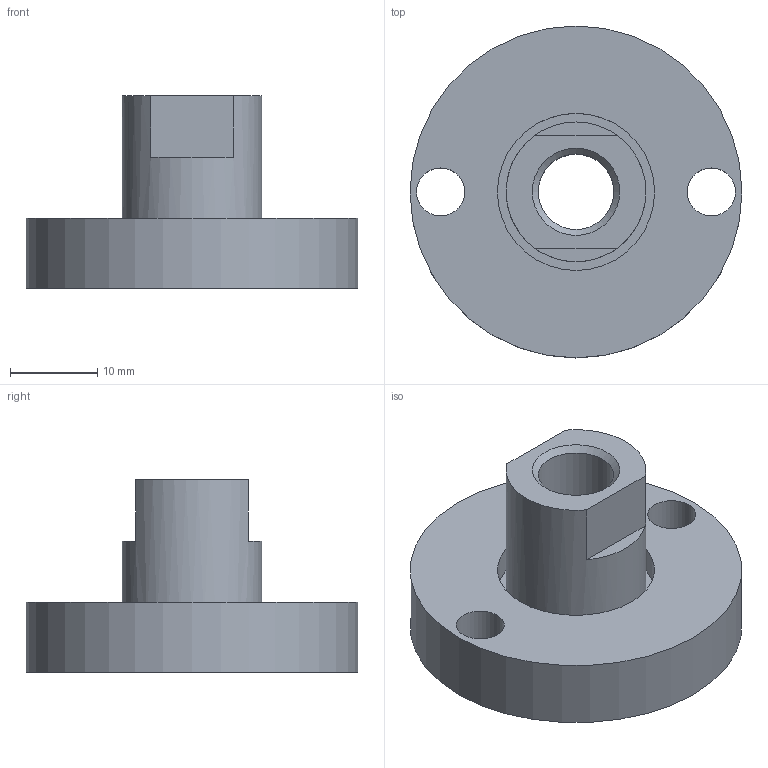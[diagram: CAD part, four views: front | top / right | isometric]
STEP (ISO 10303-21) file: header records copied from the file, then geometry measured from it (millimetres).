
FILE_DESCRIPTION( ( 'STEP AP214' ), '1' );
FILE_NAME( 'U:/Etudes/Top Solid/BIBLIO 3D AVM/TOP/PNEUMATIQUE/GUIDAGES/Accessoires/Accouplements/5133003.step', '2005-05-27T08:28:34', ( ' ' ), ( ' ' ), 'XStep 1.0', ' ', ' ' );
FILE_SCHEMA( ( 'automotive_design' ) );
Length unit declared in the file: metre
Products named in the file (1): 1
Bounding box: 38 x 38 x 22 mm (x, y, z)
Volume: 9909.1 mm3; surface area: 4889.6 mm2
Topology: 1 solids, 1 shells, 16 faces, 34 edges, 22 vertices
Faces by surface type: plane 8, cylinder 7, cone 1
Full cylindrical faces by diameter (mm): 5.5 x2, 8.647 x2, 16 x1, 18 x1, 38 x1
Entity records: 546 total; most frequent: DIRECTION 76, CARTESIAN_POINT 63, ORIENTED_EDGE 50, AXIS2_PLACEMENT_3D 34, EDGE_LOOP 32, EDGE_CURVE 25, FACE_OUTER_BOUND 23, VERTEX_POINT 21
